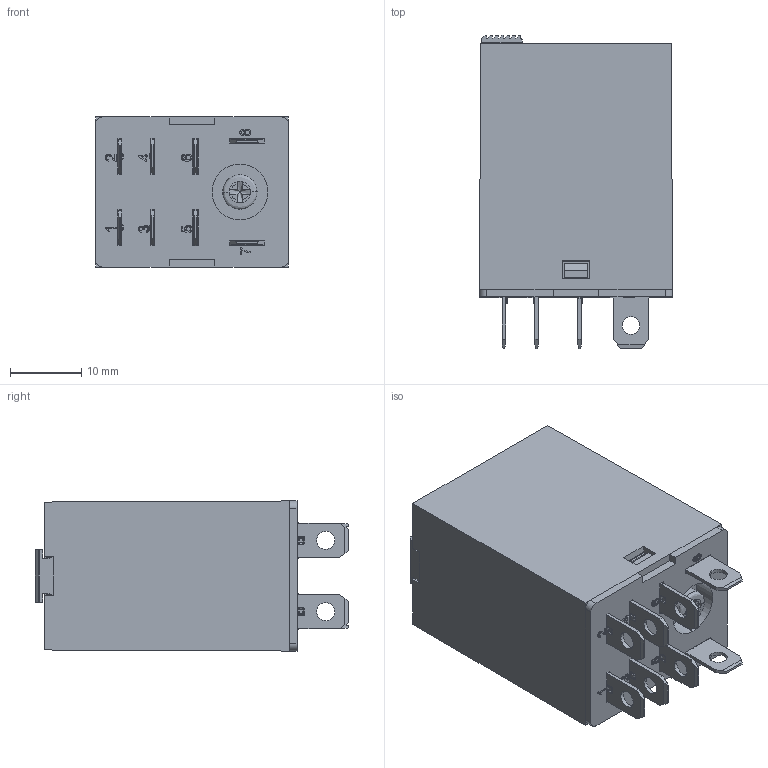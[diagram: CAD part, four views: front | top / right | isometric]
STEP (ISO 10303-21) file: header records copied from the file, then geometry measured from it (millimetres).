
FILE_DESCRIPTION (( 'STEP AP203' ), '1' );
FILE_NAME ('RKL1CO 俋倛.STEP', '2023-01-13T08:12:09', ( '' ), ( '' ), 'SwSTEP 2.0', 'SolidWorks 2018', '' );
FILE_SCHEMA (( 'CONFIG_CONTROL_DESIGN' ));
Length unit declared in the file: millimetre
Products named in the file (1): RKL1CO 俋倛
Bounding box: 27 x 43.8 x 21 mm (x, y, z)
Volume: 19768 mm3; surface area: 5708 mm2
Topology: 1 solids, 2 shells, 830 faces, 2164 edges, 1388 vertices
Faces by surface type: plane 451, cylinder 205, torus 96, bspline 74, cone 4
Entity records: 29374 total; most frequent: CARTESIAN_POINT 9043, ORIENTED_EDGE 4328, DIRECTION 4030, EDGE_CURVE 2164, LINE 1426, VECTOR 1426, VERTEX_POINT 1388, AXIS2_PLACEMENT_3D 1302
